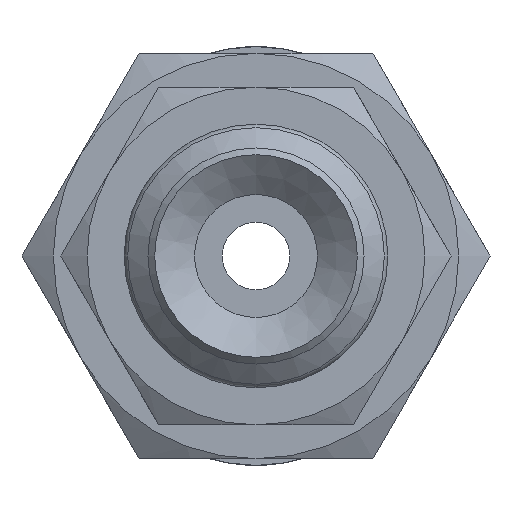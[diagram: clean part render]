
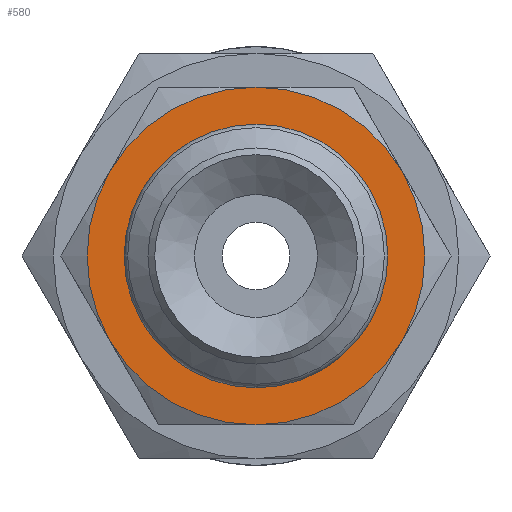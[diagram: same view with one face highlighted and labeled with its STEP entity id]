
A CAD part, front view. The second image highlights one B-rep face of the part: STEP entity #580.
In plain terms, the highlighted planar face has unit normal (0, -1, 0).
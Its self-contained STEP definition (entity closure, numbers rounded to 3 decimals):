
#580=ADVANCED_FACE('',(#922,#923),#924,.T.);
#922=FACE_BOUND('',#1516,.T.);
#923=FACE_OUTER_BOUND('',#1517,.T.);
#924=PLANE('',#1518);
#1516=EDGE_LOOP('',(#2368));
#1517=EDGE_LOOP('',(#2369,#2370,#2371,#2372,#2373,#2374));
#1518=AXIS2_PLACEMENT_3D('',#2375,#2376,#2377);
#2368=ORIENTED_EDGE('',*,*,#2770,.F.);
#2369=ORIENTED_EDGE('',*,*,#2744,.T.);
#2370=ORIENTED_EDGE('',*,*,#2778,.T.);
#2371=ORIENTED_EDGE('',*,*,#2758,.T.);
#2372=ORIENTED_EDGE('',*,*,#2760,.T.);
#2373=ORIENTED_EDGE('',*,*,#2779,.T.);
#2374=ORIENTED_EDGE('',*,*,#2780,.T.);
#2375=CARTESIAN_POINT('',(2.0,0.,0.0));
#2376=DIRECTION('',(0.0,-1.0,0.0));
#2377=DIRECTION('',(0.0,0.0,-1.0));
#2744=EDGE_CURVE('',#3139,#3145,#3147,.T.);
#2758=EDGE_CURVE('',#3170,#3163,#3172,.T.);
#2760=EDGE_CURVE('',#3163,#3173,#3175,.T.);
#2770=EDGE_CURVE('',#3189,#3189,#3190,.T.);
#2778=EDGE_CURVE('',#3145,#3170,#3204,.T.);
#2779=EDGE_CURVE('',#3173,#3122,#3205,.T.);
#2780=EDGE_CURVE('',#3122,#3139,#3206,.T.);
#3122=VERTEX_POINT('',#4156);
#3139=VERTEX_POINT('',#4186);
#3145=VERTEX_POINT('',#4199);
#3147=CIRCLE('',#4203,5.0);
#3163=VERTEX_POINT('',#4231);
#3170=VERTEX_POINT('',#4245);
#3172=CIRCLE('',#4249,5.0);
#3173=VERTEX_POINT('',#4250);
#3175=CIRCLE('',#4254,5.0);
#3189=VERTEX_POINT('',#4273);
#3190=CIRCLE('',#4274,2.0);
#3204=CIRCLE('',#4290,5.0);
#3205=CIRCLE('',#4291,5.0);
#3206=CIRCLE('',#4292,5.0);
#4156=CARTESIAN_POINT('',(-4.33,0.0,-2.5));
#4186=CARTESIAN_POINT('',(0.0,0.0,-5.0));
#4199=CARTESIAN_POINT('',(4.33,0.0,-2.5));
#4203=AXIS2_PLACEMENT_3D('',#4676,#4677,#4678);
#4231=CARTESIAN_POINT('',(0.0,0.0,5.0));
#4245=CARTESIAN_POINT('',(4.33,0.0,2.5));
#4249=AXIS2_PLACEMENT_3D('',#4685,#4686,#4687);
#4250=CARTESIAN_POINT('',(-4.33,0.,2.5));
#4254=AXIS2_PLACEMENT_3D('',#4688,#4689,#4690);
#4273=CARTESIAN_POINT('',(0.0,0.,-2.0));
#4274=AXIS2_PLACEMENT_3D('',#4710,#4711,#4712);
#4290=AXIS2_PLACEMENT_3D('',#4731,#4732,#4733);
#4291=AXIS2_PLACEMENT_3D('',#4734,#4735,#4736);
#4292=AXIS2_PLACEMENT_3D('',#4737,#4738,#4739);
#4676=CARTESIAN_POINT('',(0.0,0.,0.0));
#4677=DIRECTION('',(0.0,-1.0,0.0));
#4678=DIRECTION('',(0.0,0.0,-1.0));
#4685=CARTESIAN_POINT('',(0.0,0.,0.0));
#4686=DIRECTION('',(0.0,-1.0,0.0));
#4687=DIRECTION('',(0.0,0.0,-1.0));
#4688=CARTESIAN_POINT('',(0.0,0.,0.0));
#4689=DIRECTION('',(0.0,-1.0,0.0));
#4690=DIRECTION('',(0.0,0.0,-1.0));
#4710=CARTESIAN_POINT('',(0.0,0.,0.0));
#4711=DIRECTION('',(0.0,-1.0,0.0));
#4712=DIRECTION('',(0.0,0.0,-1.0));
#4731=CARTESIAN_POINT('',(0.0,0.,0.0));
#4732=DIRECTION('',(0.0,-1.0,0.0));
#4733=DIRECTION('',(0.0,0.0,-1.0));
#4734=CARTESIAN_POINT('',(0.0,0.,0.0));
#4735=DIRECTION('',(0.0,-1.0,0.0));
#4736=DIRECTION('',(0.0,0.0,-1.0));
#4737=CARTESIAN_POINT('',(0.0,0.,0.0));
#4738=DIRECTION('',(0.0,-1.0,0.0));
#4739=DIRECTION('',(0.0,0.0,-1.0));
